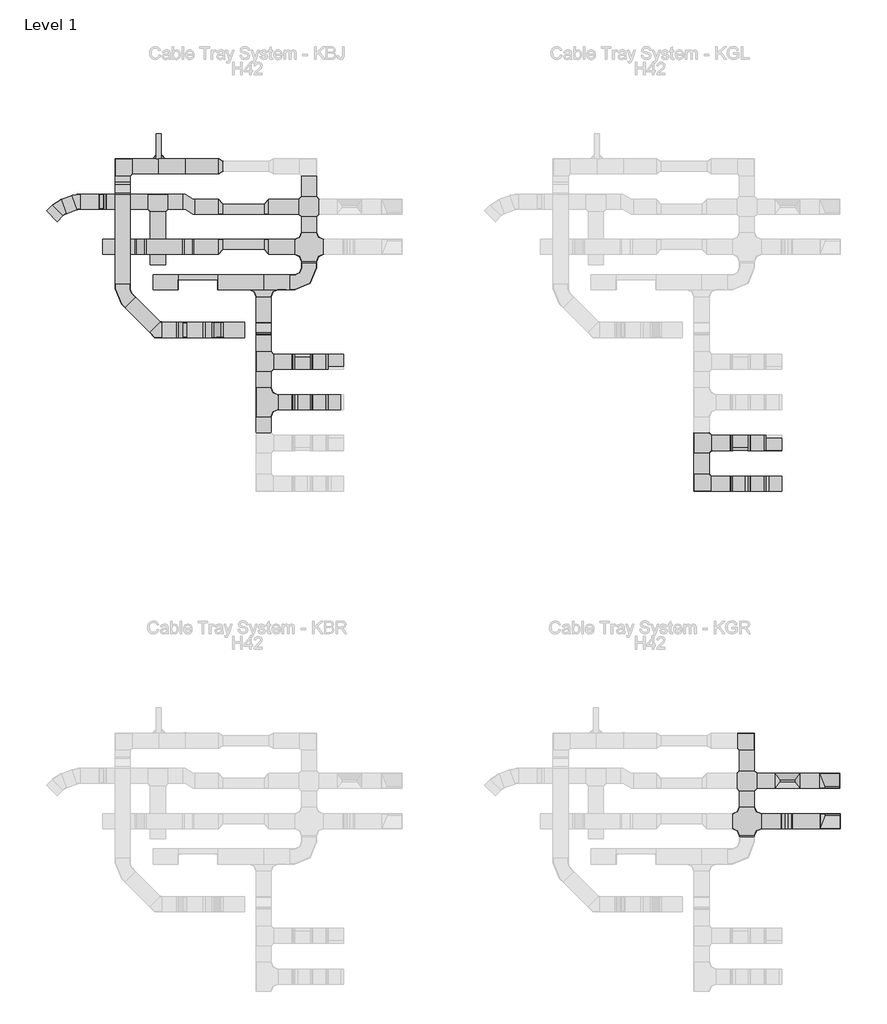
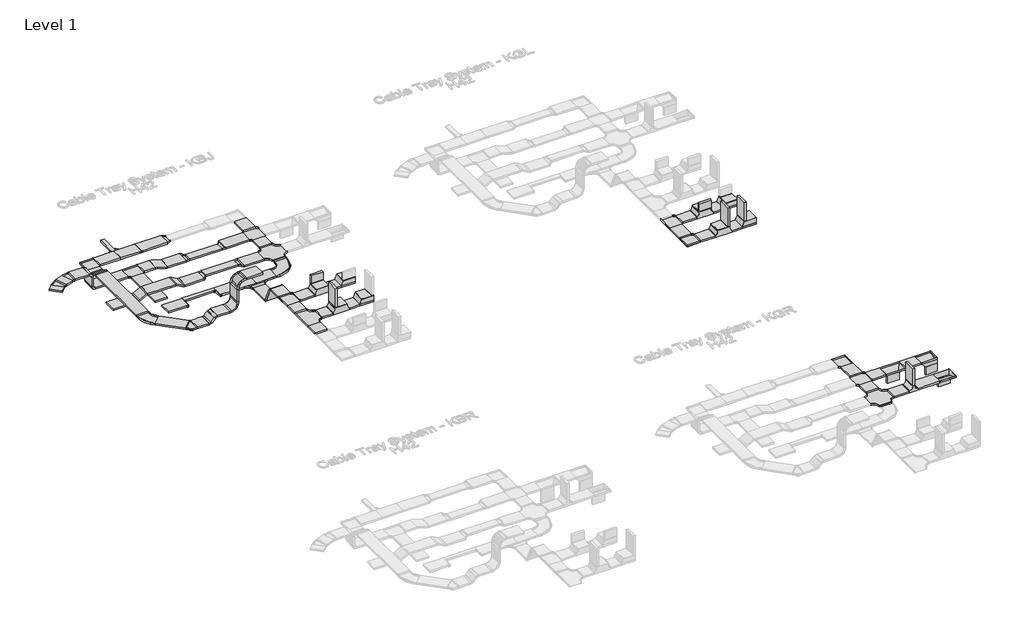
# One storey, part 6 of 106: 64 cable carrier segments, 51 cable carrier fittings.
"""IFC4 building model written with IfcOpenShell, lengths in millimetres."""

from ifc_helpers import new_model, si_unit, frame, origin, place, context, project, spatial, polyline, outline, extrude, transform, mapped, element, save
from components import cable_carrier_fitting_2f03b0e3, cable_carrier_fitting_e5c8e40d, cable_carrier_fitting_89415aa4, cable_carrier_fitting_efa56db2, cable_carrier_fitting_91cb0ece, cable_carrier_fitting_fd90c8b5, cable_carrier_fitting_9cc64f74, cable_carrier_fitting_881c8fdb, cable_carrier_fitting_302010ec, cable_carrier_fitting_bee8c25e, cable_carrier_fitting_2b67af39, cable_carrier_fitting_400b97e6, cable_carrier_fitting_736d034b, cable_carrier_fitting_af289c29, cable_carrier_fitting_3ff81d9b, cable_carrier_fitting_7d5806c9, cable_carrier_fitting_0ce080ce, cable_carrier_fitting_1724e2f5, cable_carrier_fitting_0e05e12f, cable_carrier_fitting_aa4403b1, cable_carrier_fitting_df0feb0d, cable_carrier_fitting_b8cc1d00, cable_carrier_fitting_19ef2403, cable_carrier_fitting_0fee3a18, cable_carrier_fitting_e93d4d17, cable_carrier_fitting_f62230c1, cable_carrier_fitting_68112528, cable_carrier_fitting_3c0e6721, cable_carrier_fitting_94ef316f, cable_carrier_fitting_70c157f5, cable_carrier_fitting_f138ef00, cable_carrier_fitting_b296faec, cable_carrier_fitting_717dd42d, cable_carrier_fitting_55953e98, cable_carrier_fitting_c1d9b0e5, rkj200_h42_1d64d163, rkj200_h42_0f858a6a

model = new_model("IFC4")

# Units and contexts
model_context = context("Model", 3, world=origin())
ifc_project = project(units=[si_unit("LENGTHUNIT", "METRE", prefix="MILLI")], contexts=[model_context])

# Site, building, storey
site = spatial("IfcSite", under=ifc_project)
building = spatial("IfcBuilding", under=site)
storey = spatial("IfcBuildingStorey", under=building, Name="Level 1", Elevation=0.0)

# Cable carrier fittings
placement = place(None, origin())
cable_carrier_fitting_shape = cable_carrier_fitting_2f03b0e3(model_context)
element("IfcCableCarrierFitting", 1, ObjectType="BAKS_Vertical tee symetrical : TRSNJ_H42", at=placement, inside=storey, context=model_context, shape_type="MappedRepresentation", body=[
    mapped(cable_carrier_fitting_shape, transform((-6858.1670538, 56380.8714214, 0.0), x_axis=(1.0, 0.0, 0.0), y_axis=(0.0, -1.0, 0.0), z_axis=(0.0, 0.0, -1.0))),
])
cable_carrier_fitting_2_shape = cable_carrier_fitting_e5c8e40d(model_context)
element("IfcCableCarrierFitting", 2, ObjectType="BAKS_SUB_Corner connector : LRJ_H42", at=placement, inside=storey, context=model_context, shape_type="MappedRepresentation", body=[
    mapped(cable_carrier_fitting_2_shape, transform((-19375.1670538, 69530.8714214, -21.0), x_axis=(-1.0, 0.0, 0.0), y_axis=(0.0, -1.0, 0.0), z_axis=(0.0, 0.0, 1.0))),
])
element("IfcCableCarrierFitting", 3, ObjectType="BAKS_SUB_Corner connector : LRJ_H42", at=placement, inside=storey, context=model_context, shape_type="MappedRepresentation", body=[
    mapped(cable_carrier_fitting_2_shape, transform((-19275.1670538, 69530.8714214, -21.0), x_axis=(0.0, 1.0, 0.0), y_axis=(-1.0, 0.0, 0.0), z_axis=(0.0, 0.0, 1.0))),
])
cable_carrier_fitting_3_shape = cable_carrier_fitting_89415aa4(model_context)
element("IfcCableCarrierFitting", 4, ObjectType="BAKS_Horizontal bend : KKBL/KKMBL_H42", at=placement, inside=storey, context=model_context, shape_type="MappedRepresentation", body=[
    mapped(cable_carrier_fitting_3_shape, transform((-19343.6670538, 66131.3714214, 100.0), x_axis=(0.7071067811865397, -0.7071067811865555, 0.0), y_axis=(0.7071067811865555, 0.7071067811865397, 0.0), z_axis=(0.0, 0.0, 1.0))),
])
cable_carrier_fitting_4_shape = cable_carrier_fitting_efa56db2(model_context)
element("IfcCableCarrierFitting", 5, ObjectType="BAKS_Horizontal bypass : OPZNJ_H42", at=placement, inside=storey, context=model_context, shape_type="MappedRepresentation", body=[
    mapped(cable_carrier_fitting_4_shape, transform((-18722.1670538, 68580.8714214, 0.0), x_axis=(-1.0, 0.0, 0.0), y_axis=(0.0, 1.0, 0.0), z_axis=(0.0, 0.0, -1.0))),
])
cable_carrier_fitting_5_shape = cable_carrier_fitting_91cb0ece(model_context)
element("IfcCableCarrierFitting", 6, ObjectType="BAKS_Horizontal cross over : CZKL_H42", at=placement, inside=storey, context=model_context, shape_type="MappedRepresentation", body=[
    mapped(cable_carrier_fitting_5_shape, transform((-7643.1670538, 57180.8714214, 0.0), x_axis=(0.0, -1.0, 0.0), y_axis=(1.0, 0.0, 0.0), z_axis=(0.0, 0.0, 1.0))),
])
element("IfcCableCarrierFitting", 7, ObjectType="BAKS_Horizontal cross over : CZKL_H42", at=placement, inside=storey, context=model_context, shape_type="MappedRepresentation", body=[
    mapped(cable_carrier_fitting_5_shape, transform((-16343.1670538, 68580.8714214, 0.0), x_axis=(0.0, -1.0, 0.0), y_axis=(1.0, 0.0, 0.0), z_axis=(0.0, 0.0, 1.0))),
])
cable_carrier_fitting_6_shape = cable_carrier_fitting_fd90c8b5(model_context)
element("IfcCableCarrierFitting", 8, ObjectType="BAKS_Horizontal tee radius : TKPJ_H42", at=placement, inside=storey, context=model_context, shape_type="MappedRepresentation", body=[
    mapped(cable_carrier_fitting_6_shape, transform((-17246.1670538, 64696.5802898, 432.5277378), x_axis=(0.0, 1.0, 0.0), y_axis=(-1.0, 0.0, 0.0), z_axis=(0.0, 0.0, 1.0))),
])
cable_carrier_fitting_7_shape = cable_carrier_fitting_9cc64f74(model_context)
element("IfcCableCarrierFitting", 9, ObjectType="BAKS_Horizontal tee : TKL_H42", at=placement, inside=storey, context=model_context, shape_type="MappedRepresentation", body=[
    mapped(cable_carrier_fitting_7_shape, transform((-19343.6670538, 68680.8714214, 0.0), x_axis=(1.0, 0.0, 0.0), y_axis=(0.0, 1.0, 0.0), z_axis=(0.0, 0.0, 1.0))),
])
element("IfcCableCarrierFitting", 10, ObjectType="BAKS_Horizontal tee : TKL_H42", at=placement, inside=storey, context=model_context, shape_type="MappedRepresentation", body=[
    mapped(cable_carrier_fitting_7_shape, transform((-17246.1670538, 65503.8631068, 432.5277378), x_axis=(0.0, 1.0, 0.0), y_axis=(-1.0, 0.0, 0.0), z_axis=(0.0, 0.0, 1.0))),
])
element("IfcCableCarrierFitting", 11, ObjectType="BAKS_Horizontal tee : TKL_H42", at=placement, inside=storey, context=model_context, shape_type="MappedRepresentation", body=[
    mapped(cable_carrier_fitting_7_shape, transform((-8546.1670538, 63889.2974728, 432.5277378), x_axis=(0.0, 1.0, 0.0), y_axis=(-1.0, 0.0, 0.0), z_axis=(0.0, 0.0, 1.0))),
])
cable_carrier_fitting_8_shape = cable_carrier_fitting_881c8fdb(model_context)
element("IfcCableCarrierFitting", 12, ObjectType="BAKS_Universal elbow : KRUMJ_H42", at=placement, inside=storey, context=model_context, shape_type="MappedRepresentation", body=[
    mapped(cable_carrier_fitting_8_shape, transform((-16006.1670538, 64696.5802898, 432.5277378), x_axis=(1.0, 0.0, 0.0), y_axis=(0.0, 1.0, 0.0), z_axis=(0.0, 0.0, 1.0))),
])
cable_carrier_fitting_9_shape = cable_carrier_fitting_302010ec(model_context)
element("IfcCableCarrierFitting", 13, ObjectType="BAKS_Universal tee : TRUNJ_H42", at=placement, inside=storey, context=model_context, shape_type="MappedRepresentation", body=[
    mapped(cable_carrier_fitting_9_shape, transform((-16473.5199976, 64696.5802898, 432.5277378), x_axis=(-1.0, 0.0, 0.0), y_axis=(0.0, -1.0, 0.0), z_axis=(0.0, 0.0, 1.0))),
])
cable_carrier_fitting_10_shape = cable_carrier_fitting_bee8c25e(model_context)
element("IfcCableCarrierFitting", 14, ObjectType="BAKS_Vertical bend adjustable : LLL/LLJ_H42", at=placement, inside=storey, context=model_context, shape_type="MappedRepresentation", body=[
    mapped(cable_carrier_fitting_10_shape, transform((-18246.2659001, 66131.3714214, 237.4011537), x_axis=(1.0, 0.0, 0.0), y_axis=(0.0, 0.0, 1.0), z_axis=(0.0, -1.0, 0.0))),
])
element("IfcCableCarrierFitting", 15, ObjectType="BAKS_Vertical bend adjustable : LLL/LLJ_H42", at=placement, inside=storey, context=model_context, shape_type="MappedRepresentation", body=[
    mapped(cable_carrier_fitting_10_shape, transform((-18246.2659001, 66131.3714214, 977.4011537), x_axis=(0.0, 0.0, 1.0), y_axis=(1.0, 0.0, 0.0), z_axis=(0.0, 1.0, 0.0))),
])
cable_carrier_fitting_11_shape = cable_carrier_fitting_2b67af39(model_context)
element("IfcCableCarrierFitting", 16, ObjectType="BAKS_Vertical bypass : OPNNJ_H42", at=placement, inside=storey, context=model_context, shape_type="MappedRepresentation", body=[
    mapped(cable_carrier_fitting_11_shape, transform((-19686.6670538, 67780.8714214, 100.0), x_axis=(-1.0, 0.0, 0.0), y_axis=(0.0, -1.0, 0.0), z_axis=(0.0, 0.0, 1.0))),
])
cable_carrier_fitting_12_shape = cable_carrier_fitting_400b97e6(model_context)
element("IfcCableCarrierFitting", 17, ObjectType="BAKS_Vertical elbow left : KRLBJ_H42", at=placement, inside=storey, context=model_context, shape_type="MappedRepresentation", body=[
    mapped(cable_carrier_fitting_12_shape, transform((-6208.1670538, 57180.8714214, 0.0), x_axis=(1.0, 0.0, 0.0), y_axis=(0.0, 1.0, 0.0), z_axis=(0.0, 0.0, 1.0))),
])
cable_carrier_fitting_13_shape = cable_carrier_fitting_736d034b(model_context)
element("IfcCableCarrierFitting", 18, ObjectType="BAKS_Vertical tee lengthwise : TRBJ_H42", at=placement, inside=storey, context=model_context, shape_type="MappedRepresentation", body=[
    mapped(cable_carrier_fitting_13_shape, transform((-6838.1670538, 57180.8714214, 0.0), x_axis=(-1.0, 0.0, 0.0), y_axis=(0.0, -1.0, 0.0), z_axis=(0.0, 0.0, 1.0))),
])
cable_carrier_fitting_14_shape = cable_carrier_fitting_af289c29(model_context)
element("IfcCableCarrierFitting", 19, ObjectType="BAKS_Articulated_connector : LGJ_H42", at=placement, inside=storey, context=model_context, shape_type="MappedRepresentation", body=[
    mapped(cable_carrier_fitting_14_shape, transform((-17246.1670538, 66258.7056523, 0.0), x_axis=(0.0, -1.0, 0.0), y_axis=(0.0, 0.0, 1.0), z_axis=(-1.0, 0.0, 0.0))),
])
element("IfcCableCarrierFitting", 20, ObjectType="BAKS_Articulated_connector : LGJ_H42", at=placement, inside=storey, context=model_context, shape_type="MappedRepresentation", body=[
    mapped(cable_carrier_fitting_14_shape, transform((-17246.1670538, 66057.0146558, 432.5277378), x_axis=(0.0, -0.42261826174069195, 0.9063077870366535), y_axis=(0.0, -0.9063077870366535, -0.42261826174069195), z_axis=(1.0, 0.0, 0.0))),
])
cable_carrier_fitting_15_shape = cable_carrier_fitting_3ff81d9b(model_context)
element("IfcCableCarrierFitting", 21, ObjectType="BAKS_Universal tee : TRUNJ_H42", at=placement, inside=storey, context=model_context, shape_type="MappedRepresentation", body=[
    mapped(cable_carrier_fitting_15_shape, transform((-16473.5199976, 65503.8631068, 432.5277378), x_axis=(-1.0, 0.0, 0.0), y_axis=(0.0, -1.0, 0.0), z_axis=(0.0, 0.0, 1.0))),
])
cable_carrier_fitting_16_shape = cable_carrier_fitting_7d5806c9(model_context)
element("IfcCableCarrierFitting", 22, ObjectType="BAKS_Universal tee : TRUNJ_H42", at=placement, inside=storey, context=model_context, shape_type="MappedRepresentation", body=[
    mapped(cable_carrier_fitting_16_shape, transform((-7773.5199976, 63889.2974728, 432.5277378), x_axis=(-1.0, 0.0, 0.0), y_axis=(0.0, -1.0, 0.0), z_axis=(0.0, 0.0, 1.0))),
])
cable_carrier_fitting_17_shape = cable_carrier_fitting_0ce080ce(model_context)
element("IfcCableCarrierFitting", 23, ObjectType="BAKS_Universal tee : TRUNJ_H42", at=placement, inside=storey, context=model_context, shape_type="MappedRepresentation", body=[
    mapped(cable_carrier_fitting_17_shape, transform((-7773.5199976, 63082.0146558, 432.5277378), x_axis=(-1.0, 0.0, 0.0), y_axis=(0.0, -1.0, 0.0), z_axis=(0.0, 0.0, 1.0))),
])
cable_carrier_fitting_18_shape = cable_carrier_fitting_1724e2f5(model_context)
element("IfcCableCarrierFitting", 24, ObjectType="BAKS_Vertical bypass : OPNNJ_H42", at=placement, inside=storey, context=model_context, shape_type="MappedRepresentation", body=[
    mapped(cable_carrier_fitting_18_shape, transform((-18743.6670538, 67780.8714214, 0.0), x_axis=(-1.0, 0.0, 0.0), y_axis=(0.0, -1.0, 0.0), z_axis=(0.0, 0.0, 1.0))),
])
element("IfcCableCarrierFitting", 25, ObjectType="BAKS_Vertical bypass : OPNNJ_H42", at=placement, inside=storey, context=model_context, shape_type="MappedRepresentation", body=[
    mapped(cable_carrier_fitting_18_shape, transform((-20043.1670538, 68939.3714214, 0.0), x_axis=(0.0, -1.0, 0.0), y_axis=(1.0, 0.0, 0.0), z_axis=(0.0, 0.0, 1.0))),
])
cable_carrier_fitting_19_shape = cable_carrier_fitting_0e05e12f(model_context)
element("IfcCableCarrierFitting", 26, ObjectType="BAKS_Universal elbow : KRUMJ_H42", at=placement, inside=storey, context=model_context, shape_type="MappedRepresentation", body=[
    mapped(cable_carrier_fitting_19_shape, transform((-16006.1670538, 65503.8631068, 432.5277378), x_axis=(1.0, 0.0, 0.0), y_axis=(0.0, 1.0, 0.0), z_axis=(0.0, 0.0, 1.0))),
])
cable_carrier_fitting_20_shape = cable_carrier_fitting_aa4403b1(model_context)
element("IfcCableCarrierFitting", 27, ObjectType="BAKS_Universal elbow : KRUMJ_H42", at=placement, inside=storey, context=model_context, shape_type="MappedRepresentation", body=[
    mapped(cable_carrier_fitting_20_shape, transform((-7306.1670538, 63889.2974728, 432.5277378), x_axis=(1.0, 0.0, 0.0), y_axis=(0.0, 1.0, 0.0), z_axis=(0.0, 0.0, 1.0))),
])
cable_carrier_fitting_21_shape = cable_carrier_fitting_df0feb0d(model_context)
element("IfcCableCarrierFitting", 28, ObjectType="BAKS_Universal elbow : KRUMJ_H42", at=placement, inside=storey, context=model_context, shape_type="MappedRepresentation", body=[
    mapped(cable_carrier_fitting_21_shape, transform((-7306.1670538, 63082.0146558, 432.5277378), x_axis=(1.0, 0.0, 0.0), y_axis=(0.0, 1.0, 0.0), z_axis=(0.0, 0.0, 1.0))),
])
cable_carrier_fitting_22_shape = cable_carrier_fitting_b8cc1d00(model_context)
element("IfcCableCarrierFitting", 29, ObjectType="BAKS_Vertical elbow right : KRPJ_H42", at=placement, inside=storey, context=model_context, shape_type="MappedRepresentation", body=[
    mapped(cable_carrier_fitting_22_shape, transform((-6202.1670538, 56380.8714214, 0.0), x_axis=(1.0, 0.0, 0.0), y_axis=(0.0, 1.0, 0.0), z_axis=(0.0, 0.0, 1.0))),
])
cable_carrier_fitting_23_shape = cable_carrier_fitting_19ef2403(model_context)
element("IfcCableCarrierFitting", 30, ObjectType="BAKS_Adjustable bend : KKRPJ_H42", at=placement, inside=storey, context=model_context, shape_type="MappedRepresentation", body=[
    mapped(cable_carrier_fitting_23_shape, transform((-21281.9563973, 68557.7441698, 400.0), x_axis=(-0.9396926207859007, -0.34202014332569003, 0.0), y_axis=(0.34202014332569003, -0.9396926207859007, 0.0), z_axis=(0.0, 0.0, 1.0))),
])
cable_carrier_fitting_24_shape = cable_carrier_fitting_0fee3a18(model_context)
element("IfcCableCarrierFitting", 31, ObjectType="BAKS_Adjustable bend : KKRPJ_H42", at=placement, inside=storey, context=model_context, shape_type="MappedRepresentation", body=[
    mapped(cable_carrier_fitting_24_shape, transform((-20943.6670538, 68680.8714214, 400.0), x_axis=(-1.0, 0.0, 0.0), y_axis=(0.0, -1.0, 0.0), z_axis=(0.0, 0.0, 1.0))),
])
cable_carrier_fitting_25_shape = cable_carrier_fitting_e93d4d17(model_context)
element("IfcCableCarrierFitting", 32, ObjectType="BAKS_Plate connector : LPMU_H42", at=placement, inside=storey, context=model_context, shape_type="MappedRepresentation", body=[
    mapped(cable_carrier_fitting_25_shape, transform((-18803.1670538, 69380.8714214, 0.0), x_axis=(1.0, 0.0, 0.0), y_axis=(0.0, 1.0, 0.0), z_axis=(0.0, 0.0, 1.0))),
])
cable_carrier_fitting_26_shape = cable_carrier_fitting_f62230c1(model_context)
element("IfcCableCarrierFitting", 33, ObjectType="BAKS_Vertical bend LU : LLJ_H42", at=placement, inside=storey, context=model_context, shape_type="MappedRepresentation", body=[
    mapped(cable_carrier_fitting_26_shape, transform((-20443.6670538, 68680.8714214, 0.0), x_axis=(-1.0, 0.0, 0.0), y_axis=(0.0, 0.0, 1.0), z_axis=(0.0, 1.0, 0.0))),
])
element("IfcCableCarrierFitting", 34, ObjectType="BAKS_Vertical bend LU : LLJ_H42", at=placement, inside=storey, context=model_context, shape_type="MappedRepresentation", body=[
    mapped(cable_carrier_fitting_26_shape, transform((-20443.6670538, 68680.8714214, 400.0), x_axis=(0.0, 0.0, 1.0), y_axis=(-1.0, 0.0, 0.0), z_axis=(0.0, -1.0, 0.0))),
])
cable_carrier_fitting_27_shape = cable_carrier_fitting_68112528(model_context)
element("IfcCableCarrierFitting", 35, ObjectType="BAKS_Vertical bend LU : LLJ_H42", at=placement, inside=storey, context=model_context, shape_type="MappedRepresentation", body=[
    mapped(cable_carrier_fitting_27_shape, transform((-18943.6670538, 66131.3714214, 100.0), x_axis=(1.0, 0.0, 0.0), y_axis=(0.0, 0.0, 1.0), z_axis=(0.0, -1.0, 0.0))),
])
element("IfcCableCarrierFitting", 36, ObjectType="BAKS_Vertical bend LU : LLJ_H42", at=placement, inside=storey, context=model_context, shape_type="MappedRepresentation", body=[
    mapped(cable_carrier_fitting_27_shape, transform((-18806.2659001, 66131.3714214, 237.4011537), x_axis=(0.7071067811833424, 0.0, 0.7071067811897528), y_axis=(0.7071067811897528, 0.0, -0.7071067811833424), z_axis=(0.0, 1.0, 0.0))),
])
cable_carrier_fitting_28_shape = cable_carrier_fitting_3c0e6721(model_context)
element("IfcCableCarrierFitting", 37, ObjectType="BAKS_Horizontal cross over radius : CZKPJ_H42", at=placement, inside=storey, context=model_context, shape_type="MappedRepresentation", body=[
    mapped(cable_carrier_fitting_28_shape, transform((-7643.1670538, 56380.8714214, 0.0), x_axis=(0.0, -1.0, 0.0), y_axis=(1.0, 0.0, 0.0), z_axis=(0.0, 0.0, 1.0))),
])
element("IfcCableCarrierFitting", 38, ObjectType="BAKS_Horizontal cross over radius : CZKPJ_H42", at=placement, inside=storey, context=model_context, shape_type="MappedRepresentation", body=[
    mapped(cable_carrier_fitting_28_shape, transform((-16343.1670538, 67780.8714214, 0.0), x_axis=(0.0, -1.0, 0.0), y_axis=(1.0, 0.0, 0.0), z_axis=(0.0, 0.0, 1.0))),
])
cable_carrier_fitting_29_shape = cable_carrier_fitting_94ef316f(model_context)
element("IfcCableCarrierFitting", 39, ObjectType="BAKS_Reducer : RK(S/L/P)L_H42", at=placement, inside=storey, context=model_context, shape_type="MappedRepresentation", body=[
    mapped(cable_carrier_fitting_29_shape, transform((-18143.1670538, 69380.8714214, 0.0), x_axis=(1.0, 0.0, 0.0), y_axis=(0.0, 1.0, 0.0), z_axis=(0.0, 0.0, 1.0))),
])
cable_carrier_fitting_30_shape = cable_carrier_fitting_70c157f5(model_context)
element("IfcCableCarrierFitting", 40, ObjectType="BAKS_Reducer : RK(S/L/P)L_H42", at=placement, inside=storey, context=model_context, shape_type="MappedRepresentation", body=[
    mapped(cable_carrier_fitting_30_shape, transform((-18143.1670538, 68580.8714214, 0.0), x_axis=(1.0, 0.0, 0.0), y_axis=(0.0, 1.0, 0.0), z_axis=(0.0, 0.0, 1.0))),
])
element("IfcCableCarrierFitting", 41, ObjectType="BAKS_Reducer : RK(S/L/P)L_H42", at=placement, inside=storey, context=model_context, shape_type="MappedRepresentation", body=[
    mapped(cable_carrier_fitting_30_shape, transform((-17143.1670538, 67780.8714214, 0.0), x_axis=(-1.0, 0.0, 0.0), y_axis=(0.0, -1.0, 0.0), z_axis=(0.0, 0.0, 1.0))),
])
cable_carrier_fitting_31_shape = cable_carrier_fitting_f138ef00(model_context)
element("IfcCableCarrierFitting", 42, ObjectType="BAKS_Reducer : RK(S/L/P)L_H42", at=placement, inside=storey, context=model_context, shape_type="MappedRepresentation", body=[
    mapped(cable_carrier_fitting_31_shape, transform((-17143.1670538, 68580.8714214, 0.0), x_axis=(-1.0, 0.0, 0.0), y_axis=(0.0, -1.0, 0.0), z_axis=(0.0, 0.0, 1.0))),
])
element("IfcCableCarrierFitting", 43, ObjectType="BAKS_Reducer : RK(S/L/P)L_H42", at=placement, inside=storey, context=model_context, shape_type="MappedRepresentation", body=[
    mapped(cable_carrier_fitting_31_shape, transform((-18143.1670538, 67780.8714214, 0.0), x_axis=(1.0, 0.0, 0.0), y_axis=(0.0, 1.0, 0.0), z_axis=(0.0, 0.0, 1.0))),
])
cable_carrier_fitting_32_shape = cable_carrier_fitting_b296faec(model_context)
element("IfcCableCarrierFitting", 44, ObjectType="BAKS_Horizontal addon tee : TKDJ_H42", at=placement, inside=storey, context=model_context, shape_type="MappedRepresentation", body=[
    mapped(cable_carrier_fitting_32_shape, transform((-17246.1670538, 67080.8714214, 0.0), x_axis=(1.0, 0.0, 0.0), y_axis=(0.0, 1.0, 0.0), z_axis=(0.0, 0.0, 1.0))),
])
cable_carrier_fitting_33_shape = cable_carrier_fitting_717dd42d(model_context)
element("IfcCableCarrierFitting", 45, ObjectType="BAKS_Horizontal bend : KKBL/KKMBL_H42", at=placement, inside=storey, context=model_context, shape_type="MappedRepresentation", body=[
    mapped(cable_carrier_fitting_33_shape, transform((-7643.1670538, 57980.8714214, 0.0), x_axis=(0.0, 1.0, 0.0), y_axis=(-1.0, 0.0, 0.0), z_axis=(0.0, 0.0, 1.0))),
])
element("IfcCableCarrierFitting", 46, ObjectType="BAKS_Horizontal bend : KKBL/KKMBL_H42", at=placement, inside=storey, context=model_context, shape_type="MappedRepresentation", body=[
    mapped(cable_carrier_fitting_33_shape, transform((-20043.1670538, 69380.8714214, 0.0), x_axis=(-1.0, 0.0, 0.0), y_axis=(0.0, -1.0, 0.0), z_axis=(0.0, 0.0, 1.0))),
])
element("IfcCableCarrierFitting", 47, ObjectType="BAKS_Horizontal bend : KKBL/KKMBL_H42", at=placement, inside=storey, context=model_context, shape_type="MappedRepresentation", body=[
    mapped(cable_carrier_fitting_33_shape, transform((-8546.1670538, 63082.0146558, 432.5277378), x_axis=(0.0, -1.0, 0.0), y_axis=(1.0, 0.0, 0.0), z_axis=(0.0, 0.0, 1.0))),
])
cable_carrier_fitting_34_shape = cable_carrier_fitting_55953e98(model_context)
element("IfcCableCarrierFitting", 48, ObjectType="BAKS_Horizontal bend radius : KKPJ/KKMPJ_H42", at=placement, inside=storey, context=model_context, shape_type="MappedRepresentation", body=[
    mapped(cable_carrier_fitting_34_shape, transform((-20043.1670538, 66830.8714214, 100.0), x_axis=(0.0, -1.0, 0.0), y_axis=(1.0, 0.0, 0.0), z_axis=(0.0, 0.0, 1.0))),
])
cable_carrier_fitting_35_shape = cable_carrier_fitting_c1d9b0e5(model_context)
element("IfcCableCarrierFitting", 49, ObjectType="BAKS_Horizontal bend radius : KKPJ/KKMPJ_H42", at=placement, inside=storey, context=model_context, shape_type="MappedRepresentation", body=[
    mapped(cable_carrier_fitting_35_shape, transform((-16343.1670538, 67080.8714214, 0.0), x_axis=(1.0, 0.0, 0.0), y_axis=(0.0, 1.0, 0.0), z_axis=(0.0, 0.0, 1.0))),
])
rkj200_h42_shape = rkj200_h42_1d64d163(model_context)
element("IfcCableCarrierFitting", 50, ObjectType="BAKS_SUB_Reduction angular : RKJ200_H42", at=placement, inside=storey, context=model_context, shape_type="MappedRepresentation", body=[
    mapped(rkj200_h42_shape, transform((-18943.1670538, 66930.8714214, -21.0), x_axis=(1.0, 0.0, 0.0), y_axis=(0.0, 1.0, 0.0), z_axis=(0.0, 0.0, 1.0))),
])
rkj200_h42_2_shape = rkj200_h42_0f858a6a(model_context)
element("IfcCableCarrierFitting", 51, ObjectType="BAKS_SUB_Reduction angular : RKJ200_H42", at=placement, inside=storey, context=model_context, shape_type="MappedRepresentation", body=[
    mapped(rkj200_h42_2_shape, transform((-18153.1670538, 66930.8714214, -21.0), x_axis=(-1.0, 0.0, 0.0), y_axis=(0.0, -1.0, 0.0), z_axis=(0.0, 0.0, 1.0))),
])

# Cable carrier segments
element("IfcCableCarrierSegment", 52, ObjectType="BAKS - Cable tray H42 (KGR)", at=placement, inside=storey, context=model_context, shape_type="SweptSolid", body=[
    extrude(outline(polyline([(-7793.1670538, 57784.8714214), (-7493.1670538, 57784.8714214), (-7493.1670538, 57385.8714214), (-7793.1670538, 57385.8714214), (-7793.1670538, 57784.8714214)])), frame((0.0, 0.0, -21.0), z_axis=(0.0, 0.0, 1.0), x_axis=(1.0, 0.0, 0.0)), (0.0, 0.0, 1.0), 42.0),
])
element("IfcCableCarrierSegment", 53, ObjectType="BAKS - Cable tray H42 (KGR)", at=placement, inside=storey, context=model_context, shape_type="SweptSolid", body=[
    extrude(outline(polyline([(-7793.1670538, 56975.8714214), (-7493.1670538, 56975.8714214), (-7493.1670538, 56671.8714214), (-7793.1670538, 56671.8714214), (-7793.1670538, 56975.8714214)])), frame((0.0, 0.0, -21.0), z_axis=(0.0, 0.0, 1.0), x_axis=(1.0, 0.0, 0.0)), (0.0, 0.0, 1.0), 42.0),
])
element("IfcCableCarrierSegment", 54, ObjectType="BAKS - Cable tray H42 (KGR)", at=placement, inside=storey, context=model_context, shape_type="SweptSolid", body=[
    extrude(outline(polyline([(-7493.1670538, 56070.8714214), (-7793.1670538, 56070.8714214), (-7793.1670538, 56089.8714214), (-7493.1670538, 56089.8714214), (-7493.1670538, 56070.8714214)])), frame((0.0, 0.0, -21.0), z_axis=(0.0, 0.0, 1.0), x_axis=(1.0, 0.0, 0.0)), (0.0, 0.0, 1.0), 42.0),
])
element("IfcCableCarrierSegment", 55, ObjectType="BAKS - Cable tray H42 (KGR)", at=placement, inside=storey, context=model_context, shape_type="SweptSolid", body=[
    extrude(outline(polyline([(-7438.1670538, 57030.8714214), (-7438.1670538, 57330.8714214), (-7088.1670538, 57330.8714214), (-7088.1670538, 57030.8714214), (-7438.1670538, 57030.8714214)])), frame((0.0, 0.0, -21.0), z_axis=(0.0, 0.0, 1.0), x_axis=(1.0, 0.0, 0.0)), (0.0, 0.0, 1.0), 42.0),
])
element("IfcCableCarrierSegment", 56, ObjectType="BAKS - Cable tray H42 (KGR)", at=placement, inside=storey, context=model_context, shape_type="SweptSolid", body=[
    extrude(outline(polyline([(-7352.1670538, 56230.8714214), (-7352.1670538, 56530.8714214), (-6974.1670538, 56530.8714214), (-6974.1670538, 56230.8714214), (-7352.1670538, 56230.8714214)])), frame((0.0, 0.0, -21.0), z_axis=(0.0, 0.0, 1.0), x_axis=(1.0, 0.0, 0.0)), (0.0, 0.0, 1.0), 42.0),
])
element("IfcCableCarrierSegment", 57, ObjectType="BAKS - Cable tray H42 (KGR)", at=placement, inside=storey, context=model_context, shape_type="SweptSolid", body=[
    extrude(outline(polyline([(-6742.1670538, 56230.8714214), (-6742.1670538, 56530.8714214), (-6202.1670538, 56530.8714214), (-6202.1670538, 56230.8714214), (-6742.1670538, 56230.8714214)])), frame((0.0, 0.0, -21.0), z_axis=(0.0, 0.0, 1.0), x_axis=(1.0, 0.0, 0.0)), (0.0, 0.0, 1.0), 42.0),
])
element("IfcCableCarrierSegment", 58, ObjectType="BAKS - Cable tray H42 (KGR)", at=placement, inside=storey, context=model_context, shape_type="SweptSolid", body=[
    extrude(outline(polyline([(-6837.1670538, 56230.8714214), (-6879.1670538, 56230.8714214), (-6879.1670538, 56530.8714214), (-6837.1670538, 56530.8714214), (-6837.1670538, 56230.8714214)])), frame((0.0, 0.0, 136.0), z_axis=(0.0, 0.0, 1.0), x_axis=(1.0, 0.0, 0.0)), (0.0, 0.0, 1.0), 449.0),
])
element("IfcCableCarrierSegment", 59, ObjectType="BAKS - Cable tray H42 (KGR)", at=placement, inside=storey, context=model_context, shape_type="SweptSolid", body=[
    extrude(outline(polyline([(-6588.1670538, 57030.8714214), (-6588.1670538, 57330.8714214), (-6208.1670538, 57330.8714214), (-6208.1670538, 57030.8714214), (-6588.1670538, 57030.8714214)])), frame((0.0, 0.0, -21.0), z_axis=(0.0, 0.0, 1.0), x_axis=(1.0, 0.0, 0.0)), (0.0, 0.0, 1.0), 42.0),
])
element("IfcCableCarrierSegment", 60, ObjectType="BAKS - Cable tray H42 (KBJ)", at=placement, inside=storey, context=model_context, shape_type="SweptSolid", body=[
    extrude(outline(polyline([(-18802.1670538, 69230.8714214), (-18802.1670538, 69530.8714214), (-18143.1670538, 69530.8714214), (-18143.1670538, 69230.8714214), (-18802.1670538, 69230.8714214)])), frame((0.0, 0.0, -21.0), z_axis=(0.0, 0.0, 1.0), x_axis=(1.0, 0.0, 0.0)), (0.0, 0.0, 1.0), 42.0),
])
element("IfcCableCarrierSegment", 61, ObjectType="BAKS - Cable tray H42 (KBJ)", at=placement, inside=storey, context=model_context, shape_type="SweptSolid", body=[
    extrude(outline(polyline([(-16493.1670538, 69184.8714214), (-16193.1670538, 69184.8714214), (-16193.1670538, 68785.8714214), (-16493.1670538, 68785.8714214), (-16493.1670538, 69184.8714214)])), frame((0.0, 0.0, -21.0), z_axis=(0.0, 0.0, 1.0), x_axis=(1.0, 0.0, 0.0)), (0.0, 0.0, 1.0), 42.0),
])
element("IfcCableCarrierSegment", 62, ObjectType="BAKS - Cable tray H42 (KBJ)", at=placement, inside=storey, context=model_context, shape_type="SweptSolid", body=[
    extrude(outline(polyline([(-16493.1670538, 68375.8714214), (-16193.1670538, 68375.8714214), (-16193.1670538, 68071.8714214), (-16493.1670538, 68071.8714214), (-16493.1670538, 68375.8714214)])), frame((0.0, 0.0, -21.0), z_axis=(0.0, 0.0, 1.0), x_axis=(1.0, 0.0, 0.0)), (0.0, 0.0, 1.0), 42.0),
])
element("IfcCableCarrierSegment", 63, ObjectType="BAKS - Cable tray H42 (KBJ)", at=placement, inside=storey, context=model_context, shape_type="SweptSolid", body=[
    extrude(outline(polyline([(-17238.1670538, 68630.8714214), (-17238.1670538, 68430.8714214), (-18048.1670538, 68430.8714214), (-18048.1670538, 68630.8714214), (-17238.1670538, 68630.8714214)])), frame((0.0, 0.0, -21.0), z_axis=(0.0, 0.0, 1.0), x_axis=(1.0, 0.0, 0.0)), (0.0, 0.0, 1.0), 42.0),
])
element("IfcCableCarrierSegment", 64, ObjectType="BAKS - Cable tray H42 (KBJ)", at=placement, inside=storey, context=model_context, shape_type="SweptSolid", body=[
    extrude(outline(polyline([(-18600.6670538, 68430.8714214), (-18600.6670538, 68730.8714214), (-18143.1670538, 68730.8714214), (-18143.1670538, 68430.8714214), (-18600.6670538, 68430.8714214)])), frame((0.0, 0.0, -21.0), z_axis=(0.0, 0.0, 1.0), x_axis=(1.0, 0.0, 0.0)), (0.0, 0.0, 1.0), 42.0),
])
element("IfcCableCarrierSegment", 65, ObjectType="BAKS - Cable tray H42 (KBJ)", at=placement, inside=storey, context=model_context, shape_type="SweptSolid", body=[
    extrude(outline(polyline([(-16548.1670538, 68730.8714214), (-16548.1670538, 68430.8714214), (-17143.1670538, 68430.8714214), (-17143.1670538, 68730.8714214), (-16548.1670538, 68730.8714214)])), frame((0.0, 0.0, -21.0), z_axis=(0.0, 0.0, 1.0), x_axis=(1.0, 0.0, 0.0)), (0.0, 0.0, 1.0), 42.0),
])
element("IfcCableCarrierSegment", 66, ObjectType="BAKS - Cable tray H42 (KBJ)", at=placement, inside=storey, context=model_context, shape_type="SweptSolid", body=[
    extrude(outline(polyline([(-17238.1670538, 67930.8714214), (-17238.1670538, 67730.8714214), (-18048.1670538, 67730.8714214), (-18048.1670538, 67930.8714214), (-17238.1670538, 67930.8714214)])), frame((0.0, 0.0, -21.0), z_axis=(0.0, 0.0, 1.0), x_axis=(1.0, 0.0, 0.0)), (0.0, 0.0, 1.0), 42.0),
])
element("IfcCableCarrierSegment", 67, ObjectType="BAKS - Cable tray H42 (KBJ)", at=placement, inside=storey, context=model_context, shape_type="SweptSolid", body=[
    extrude(outline(polyline([(-18622.1670538, 67630.8714214), (-18622.1670538, 67930.8714214), (-18143.1670538, 67930.8714214), (-18143.1670538, 67630.8714214), (-18622.1670538, 67630.8714214)])), frame((0.0, 0.0, -21.0), z_axis=(0.0, 0.0, 1.0), x_axis=(1.0, 0.0, 0.0)), (0.0, 0.0, 1.0), 42.0),
])
element("IfcCableCarrierSegment", 68, ObjectType="BAKS - Cable tray H42 (KBJ)", at=placement, inside=storey, context=model_context, shape_type="SweptSolid", body=[
    extrude(outline(polyline([(-16634.1670538, 67930.8714214), (-16634.1670538, 67630.8714214), (-17143.1670538, 67630.8714214), (-17143.1670538, 67930.8714214), (-16634.1670538, 67930.8714214)])), frame((0.0, 0.0, -21.0), z_axis=(0.0, 0.0, 1.0), x_axis=(1.0, 0.0, 0.0)), (0.0, 0.0, 1.0), 42.0),
])
element("IfcCableCarrierSegment", 69, ObjectType="BAKS - Cable tray H42 (KBJ)", at=placement, inside=storey, context=model_context, shape_type="SweptSolid", body=[
    extrude(outline(polyline([(-19548.6670538, 68830.8714214), (-19548.6670538, 68530.8714214), (-20367.6670538, 68530.8714214), (-20367.6670538, 68830.8714214), (-19548.6670538, 68830.8714214)])), frame((0.0, 0.0, -21.0), z_axis=(0.0, 0.0, 1.0), x_axis=(1.0, 0.0, 0.0)), (0.0, 0.0, 1.0), 42.0),
])
element("IfcCableCarrierSegment", 70, ObjectType="BAKS - Cable tray H42 (KBJ)", at=placement, inside=storey, context=model_context, shape_type="SweptSolid", body=[
    extrude(outline(polyline([(-18865.1670538, 67930.8714214), (-18865.1670538, 67630.8714214), (-19565.1670538, 67630.8714214), (-19565.1670538, 67930.8714214), (-18865.1670538, 67930.8714214)])), frame((0.0, 0.0, 79.0), z_axis=(0.0, 0.0, 1.0), x_axis=(1.0, 0.0, 0.0)), (0.0, 0.0, 1.0), 42.0),
])
element("IfcCableCarrierSegment", 71, ObjectType="BAKS - Cable tray H42 (KBJ)", at=placement, inside=storey, context=model_context, shape_type="SweptSolid", body=[
    extrude(outline(polyline([(-20193.1670538, 69184.8714214), (-19893.1670538, 69184.8714214), (-19893.1670538, 69060.8714214), (-20193.1670538, 69060.8714214), (-20193.1670538, 69184.8714214)])), frame((0.0, 0.0, -21.0), z_axis=(0.0, 0.0, 1.0), x_axis=(1.0, 0.0, 0.0)), (0.0, 0.0, 1.0), 42.0),
])
element("IfcCableCarrierSegment", 72, ObjectType="BAKS - Cable tray H42 (KBJ)", at=placement, inside=storey, context=model_context, shape_type="SweptSolid", body=[
    extrude(outline(polyline([(-19493.6670538, 68475.8714214), (-19193.6670538, 68475.8714214), (-19193.6670538, 67430.8714214), (-19493.6670538, 67430.8714214), (-19493.6670538, 68475.8714214)])), frame((0.0, 0.0, -21.0), z_axis=(0.0, 0.0, 1.0), x_axis=(1.0, 0.0, 0.0)), (0.0, 0.0, 1.0), 42.0),
])
element("IfcCableCarrierSegment", 73, ObjectType="BAKS - Cable tray H42 (KBJ)", at=placement, inside=storey, context=model_context, shape_type="SweptSolid", body=[
    extrude(outline(polyline([(-18843.6670538, 68830.8714214), (-18843.6670538, 68530.8714214), (-19138.6670538, 68530.8714214), (-19138.6670538, 68830.8714214), (-18843.6670538, 68830.8714214)])), frame((0.0, 0.0, -21.0), z_axis=(0.0, 0.0, 1.0), x_axis=(1.0, 0.0, 0.0)), (0.0, 0.0, 1.0), 42.0),
])
element("IfcCableCarrierSegment", 74, ObjectType="BAKS - Cable tray H42 (KBJ)", at=placement, inside=storey, context=model_context, shape_type="SweptSolid", body=[
    extrude(outline(polyline([(-19808.1670538, 67930.8714214), (-19808.1670538, 67630.8714214), (-20443.6670538, 67630.8714214), (-20443.6670538, 67930.8714214), (-19808.1670538, 67930.8714214)])), frame((0.0, 0.0, -21.0), z_axis=(0.0, 0.0, 1.0), x_axis=(1.0, 0.0, 0.0)), (0.0, 0.0, 1.0), 42.0),
])
element("IfcCableCarrierSegment", 75, ObjectType="BAKS - Cable tray H42 (KBJ)", at=placement, inside=storey, context=model_context, shape_type="SweptSolid", body=[
    extrude(outline(polyline([(-20877.5322294, 68530.8714214), (-20877.5322294, 68830.8714214), (-20519.6670538, 68830.8714214), (-20519.6670538, 68530.8714214), (-20877.5322294, 68530.8714214)])), frame((0.0, 0.0, 379.0), z_axis=(0.0, 0.0, 1.0), x_axis=(1.0, 0.0, 0.0)), (0.0, 0.0, 1.0), 42.0),
])
element("IfcCableCarrierSegment", 76, ObjectType="BAKS - Cable tray H42 (KBJ)", at=placement, inside=storey, context=model_context, shape_type="SweptSolid", body=[
    extrude(outline(polyline([(-20464.6670538, 68830.8714214), (-20422.6670538, 68830.8714214), (-20422.6670538, 68530.8714214), (-20464.6670538, 68530.8714214), (-20464.6670538, 68830.8714214)])), frame((0.0, 0.0, 76.0), z_axis=(0.0, 0.0, 1.0), x_axis=(1.0, 0.0, 0.0)), (0.0, 0.0, 1.0), 248.0),
])
element("IfcCableCarrierSegment", 77, ObjectType="BAKS - Cable tray H42 (KBJ)", at=placement, inside=storey, context=model_context, shape_type="SweptSolid", body=[
    extrude(outline(polyline([(-19893.1670538, 67050.9933545), (-20193.1670538, 67050.9933545), (-20193.1670538, 68817.8714214), (-19893.1670538, 68817.8714214), (-19893.1670538, 67050.9933545)])), frame((0.0, 0.0, 79.0), z_axis=(0.0, 0.0, 1.0), x_axis=(1.0, 0.0, 0.0)), (0.0, 0.0, 1.0), 42.0),
])
element("IfcCableCarrierSegment", 78, ObjectType="BAKS - Cable tray H42 (KBJ)", at=placement, inside=storey, context=model_context, shape_type="SweptSolid", body=[
    extrude(outline(polyline([(-19993.5833594, 66569.1556926), (-19781.451325, 66781.287727), (-19295.422321, 66295.258723), (-19507.5543554, 66083.1266887), (-19993.5833594, 66569.1556926)])), frame((0.0, 0.0, 79.0), z_axis=(0.0, 0.0, 1.0), x_axis=(1.0, 0.0, 0.0)), (0.0, 0.0, 1.0), 42.0),
])
element("IfcCableCarrierSegment", 79, ObjectType="BAKS - Cable tray H42 (KBJ)", at=placement, inside=storey, context=model_context, shape_type="SweptSolid", body=[
    extrude(outline(polyline([(-19261.8954091, 65981.3714214), (-19261.8954091, 66281.3714214), (-18978.0762167, 66281.3714214), (-18978.0762167, 65981.3714214), (-19261.8954091, 65981.3714214)])), frame((0.0, 0.0, 79.0), z_axis=(0.0, 0.0, 1.0), x_axis=(1.0, 0.0, 0.0)), (0.0, 0.0, 1.0), 42.0),
])
element("IfcCableCarrierSegment", 80, ObjectType="BAKS - Cable tray H42 (KBJ)", at=placement, inside=storey, context=model_context, shape_type="SweptSolid", body=[
    extrude(outline(polyline([(21.0, 1.4628667), (-21.0, 1.4628667), (-21.0, 301.4628667), (21.0, 301.4628667), (21.0, 1.4628667)])), frame((-18919.3361013, 65979.9085547, 124.3309524), z_axis=(0.7071067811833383, 0.0, 0.7071067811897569), x_axis=(0.7071067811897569, 0.0, -0.7071067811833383)), (0.0, 0.0, 1.0), 125.4962492),
])
element("IfcCableCarrierSegment", 81, ObjectType="BAKS - Cable tray H42 (KBJ)", at=placement, inside=storey, context=model_context, shape_type="SweptSolid", body=[
    extrude(outline(polyline([(-18771.8567371, 65981.3714214), (-18771.8567371, 66281.3714214), (-18457.2659001, 66281.3714214), (-18457.2659001, 65981.3714214), (-18771.8567371, 65981.3714214)])), frame((0.0, 0.0, 216.4011537), z_axis=(0.0, 0.0, 1.0), x_axis=(1.0, 0.0, 0.0)), (0.0, 0.0, 1.0), 42.0),
])
element("IfcCableCarrierSegment", 82, ObjectType="BAKS - Cable tray H42 (KBJ)", at=placement, inside=storey, context=model_context, shape_type="SweptSolid", body=[
    extrude(outline(polyline([(-18225.2659001, 65981.3714214), (-18267.2659001, 65981.3714214), (-18267.2659001, 66281.3714214), (-18225.2659001, 66281.3714214), (-18225.2659001, 65981.3714214)])), frame((0.0, 0.0, 448.4011537), z_axis=(0.0, 0.0, 1.0), x_axis=(1.0, 0.0, 0.0)), (0.0, 0.0, 1.0), 318.0),
])
element("IfcCableCarrierSegment", 83, ObjectType="BAKS - Cable tray H42 (KBJ)", at=placement, inside=storey, context=model_context, shape_type="SweptSolid", body=[
    extrude(outline(polyline([(-18035.2659001, 65981.3714214), (-18035.2659001, 66281.3714214), (-17626.2659001, 66281.3714214), (-17626.2659001, 65981.3714214), (-18035.2659001, 65981.3714214)])), frame((0.0, 0.0, 956.4011537), z_axis=(0.0, 0.0, 1.0), x_axis=(1.0, 0.0, 0.0)), (0.0, 0.0, 1.0), 42.0),
])
element("IfcCableCarrierSegment", 84, ObjectType="BAKS - Cable tray H42 (KBJ)", at=placement, inside=storey, context=model_context, shape_type="SweptSolid", body=[
    extrude(outline(polyline([(-17246.7091451, 67230.8714214), (-17246.7091451, 66930.8714214), (-18152.1670538, 66930.8714214), (-18152.1670538, 67230.8714214), (-17246.7091451, 67230.8714214)])), frame((0.0, 0.0, -21.0), z_axis=(0.0, 0.0, 1.0), x_axis=(1.0, 0.0, 0.0)), (0.0, 0.0, 1.0), 42.0),
])
element("IfcCableCarrierSegment", 85, ObjectType="BAKS - Cable tray H42 (KBJ)", at=placement, inside=storey, context=model_context, shape_type="SweptSolid", body=[
    extrude(outline(polyline([(-16193.1670538, 67470.8714214), (-16493.1670538, 67470.8714214), (-16493.1670538, 67489.8714214), (-16193.1670538, 67489.8714214), (-16193.1670538, 67470.8714214)])), frame((0.0, 0.0, -21.0), z_axis=(0.0, 0.0, 1.0), x_axis=(1.0, 0.0, 0.0)), (0.0, 0.0, 1.0), 42.0),
])
element("IfcCableCarrierSegment", 86, ObjectType="BAKS - Cable tray H42 (KBJ)", at=placement, inside=storey, context=model_context, shape_type="SweptSolid", body=[
    extrude(outline(polyline([(-19443.1670538, 66930.8714214), (-19443.1670538, 67230.8714214), (-18943.1670538, 67230.8714214), (-18943.1670538, 66930.8714214), (-19443.1670538, 66930.8714214)])), frame((0.0, 0.0, -21.0), z_axis=(0.0, 0.0, 1.0), x_axis=(1.0, 0.0, 0.0)), (0.0, 0.0, 1.0), 42.0),
])
element("IfcCableCarrierSegment", 87, ObjectType="BAKS - Cable tray H42 (KBJ)", at=placement, inside=storey, context=model_context, shape_type="SweptSolid", body=[
    extrude(outline(polyline([(-16733.1670538, 67230.8714214), (-16733.1670538, 66930.8714214), (-17245.6249624, 66930.8714214), (-17245.6249624, 67230.8714214), (-16733.1670538, 67230.8714214)])), frame((0.0, 0.0, -21.0), z_axis=(0.0, 0.0, 1.0), x_axis=(1.0, 0.0, 0.0)), (0.0, 0.0, 1.0), 42.0),
])
element("IfcCableCarrierSegment", 88, ObjectType="BAKS - Cable tray H42 (KBJ)", at=placement, inside=storey, context=model_context, shape_type="SweptSolid", body=[
    extrude(outline(polyline([(-17396.1670538, 66784.8714214), (-17096.1670538, 66784.8714214), (-17096.1670538, 66285.269479), (-17396.1670538, 66285.269479), (-17396.1670538, 66784.8714214)])), frame((0.0, 0.0, -21.0), z_axis=(0.0, 0.0, 1.0), x_axis=(1.0, 0.0, 0.0)), (0.0, 0.0, 1.0), 42.0),
])
element("IfcCableCarrierSegment", 89, ObjectType="BAKS - Cable tray H42 (KBJ)", at=placement, inside=storey, context=model_context, shape_type="SweptSolid", body=[
    extrude(outline(polyline([(-150.0, 130.4628667), (-150.0, 172.4628668), (150.0, 172.4628668), (150.0, 130.4628667), (-150.0, 130.4628667)])), frame((-17246.1670538, 66110.2073184, -39.9359704), z_axis=(0.0, -0.4226182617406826, 0.9063077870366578), x_axis=(1.0, 0.0, 0.0)), (0.0, 0.0, 1.0), 424.1139016),
])
element("IfcCableCarrierSegment", 90, ObjectType="BAKS - Cable tray H42 (KBJ)", at=placement, inside=storey, context=model_context, shape_type="SweptSolid", body=[
    extrude(outline(polyline([(-21057.1164817, 68799.2058724), (-20954.5104387, 68517.2980862), (-21156.1437833, 68443.9095505), (-21258.7498263, 68725.8173368), (-21057.1164817, 68799.2058724)])), frame((0.0, 0.0, 379.0), z_axis=(0.0, 0.0, 1.0), x_axis=(1.0, 0.0, 0.0)), (0.0, 0.0, 1.0), 42.0),
])
element("IfcCableCarrierSegment", 91, ObjectType="BAKS - Cable tray H42 (KBJ)", at=placement, inside=storey, context=model_context, shape_type="SweptSolid", body=[
    extrude(outline(polyline([(-21444.0899379, 68607.7426635), (-21231.9579036, 68395.6106291), (-21344.3432656, 68283.2252671), (-21556.4753, 68495.3573015), (-21444.0899379, 68607.7426635)])), frame((0.0, 0.0, 379.0), z_axis=(0.0, 0.0, 1.0), x_axis=(1.0, 0.0, 0.0)), (0.0, 0.0, 1.0), 42.0),
])
element("IfcCableCarrierSegment", 92, ObjectType="BAKS - Cable tray H42 (KBJ)", at=placement, inside=storey, context=model_context, shape_type="SweptSolid", body=[
    extrude(outline(polyline([(-19324.6670538, 69230.8714214), (-19324.6670538, 69530.8714214), (-18803.1670538, 69530.8714214), (-18803.1670538, 69230.8714214), (-19324.6670538, 69230.8714214)])), frame((0.0, 0.0, -21.0), z_axis=(0.0, 0.0, 1.0), x_axis=(1.0, 0.0, 0.0)), (0.0, 0.0, 1.0), 42.0),
])
element("IfcCableCarrierSegment", 93, ObjectType="BAKS - Cable tray H42 (KBJ)", at=placement, inside=storey, context=model_context, shape_type="SweptSolid", body=[
    extrude(outline(polyline([(-19275.1670538, 69530.8714214), (-19375.1670538, 69530.8714214), (-19375.1670538, 70030.8714214), (-19275.1670538, 70030.8714214), (-19275.1670538, 69530.8714214)])), frame((0.0, 0.0, -21.0), z_axis=(0.0, 0.0, 1.0), x_axis=(1.0, 0.0, 0.0)), (0.0, 0.0, 1.0), 42.0),
])
element("IfcCableCarrierSegment", 94, ObjectType="BAKS - Cable tray H42 (KBJ)", at=placement, inside=storey, context=model_context, shape_type="SweptSolid", body=[
    extrude(outline(polyline([(-19847.1670538, 69230.8714214), (-19847.1670538, 69530.8714214), (-19325.6670538, 69530.8714214), (-19325.6670538, 69230.8714214), (-19847.1670538, 69230.8714214)])), frame((0.0, 0.0, -21.0), z_axis=(0.0, 0.0, 1.0), x_axis=(1.0, 0.0, 0.0)), (0.0, 0.0, 1.0), 42.0),
])
element("IfcCableCarrierSegment", 95, ObjectType="BAKS - Cable tray H42 (KBJ)", at=placement, inside=storey, context=model_context, shape_type="SweptSolid", body=[
    extrude(outline(polyline([(-17396.1670538, 64401.5802898), (-17096.1670538, 64401.5802898), (-17096.1670538, 64094.2974728), (-17396.1670538, 64094.2974728), (-17396.1670538, 64401.5802898)])), frame((0.0, 0.0, 411.5277378), z_axis=(0.0, 0.0, 1.0), x_axis=(1.0, 0.0, 0.0)), (0.0, 0.0, 1.0), 42.0),
])
element("IfcCableCarrierSegment", 96, ObjectType="BAKS - Cable tray H42 (KBJ)", at=placement, inside=storey, context=model_context, shape_type="SweptSolid", body=[
    extrude(outline(polyline([(-16263.5199976, 64546.5802898), (-16263.5199976, 64846.5802898), (-16006.1670538, 64846.5802898), (-16006.1670538, 64546.5802898), (-16263.5199976, 64546.5802898)])), frame((0.0, 0.0, 411.5277378), z_axis=(0.0, 0.0, 1.0), x_axis=(1.0, 0.0, 0.0)), (0.0, 0.0, 1.0), 42.0),
])
element("IfcCableCarrierSegment", 97, ObjectType="BAKS - Cable tray H42 (KBJ)", at=placement, inside=storey, context=model_context, shape_type="SweptSolid", body=[
    extrude(outline(polyline([(-17396.1670538, 65298.8631068), (-17096.1670538, 65298.8631068), (-17096.1670538, 64991.5802898), (-17396.1670538, 64991.5802898), (-17396.1670538, 65298.8631068)])), frame((0.0, 0.0, 411.5277378), z_axis=(0.0, 0.0, 1.0), x_axis=(1.0, 0.0, 0.0)), (0.0, 0.0, 1.0), 42.0),
])
element("IfcCableCarrierSegment", 98, ObjectType="BAKS - Cable tray H42 (KBJ)", at=placement, inside=storey, context=model_context, shape_type="SweptSolid", body=[
    extrude(outline(polyline([(-16263.5199976, 65353.8631068), (-16263.5199976, 65653.8631068), (-16006.1670538, 65653.8631068), (-16006.1670538, 65353.8631068), (-16263.5199976, 65353.8631068)])), frame((0.0, 0.0, 411.5277378), z_axis=(0.0, 0.0, 1.0), x_axis=(1.0, 0.0, 0.0)), (0.0, 0.0, 1.0), 42.0),
])
element("IfcCableCarrierSegment", 99, ObjectType="BAKS - Cable tray H42 (KBJ)", at=placement, inside=storey, context=model_context, shape_type="SweptSolid", body=[
    extrude(outline(polyline([(-17096.1670538, 65708.8631068), (-17396.1670538, 65708.8631068), (-17396.1670538, 66030.450829), (-17096.1670538, 66030.450829), (-17096.1670538, 65708.8631068)])), frame((0.0, 0.0, 411.5277378), z_axis=(0.0, 0.0, 1.0), x_axis=(1.0, 0.0, 0.0)), (0.0, 0.0, 1.0), 42.0),
])
element("IfcCableCarrierSegment", 100, ObjectType="BAKS - Cable tray H42 (KBJ)", at=placement, inside=storey, context=model_context, shape_type="SweptSolid", body=[
    extrude(outline(polyline([(-17041.1670538, 65353.8631068), (-17041.1670538, 65653.8631068), (-16683.5199976, 65653.8631068), (-16683.5199976, 65353.8631068), (-17041.1670538, 65353.8631068)])), frame((0.0, 0.0, 411.5277378), z_axis=(0.0, 0.0, 1.0), x_axis=(1.0, 0.0, 0.0)), (0.0, 0.0, 1.0), 42.0),
])
element("IfcCableCarrierSegment", 101, ObjectType="BAKS - Cable tray H42 (KBJ)", at=placement, inside=storey, context=model_context, shape_type="SweptSolid", body=[
    extrude(outline(polyline([(-16951.1670538, 64546.5802898), (-16951.1670538, 64846.5802898), (-16683.5199976, 64846.5802898), (-16683.5199976, 64546.5802898), (-16951.1670538, 64546.5802898)])), frame((0.0, 0.0, 411.5277378), z_axis=(0.0, 0.0, 1.0), x_axis=(1.0, 0.0, 0.0)), (0.0, 0.0, 1.0), 42.0),
])
element("IfcCableCarrierSegment", 102, ObjectType="BAKS - Cable tray H42 (KBJ)", at=placement, inside=storey, context=model_context, shape_type="SweptSolid", body=[
    extrude(outline(polyline([(-16323.5199976, 65653.8631068), (-16323.5199976, 65603.8631068), (-16623.5199976, 65603.8631068), (-16623.5199976, 65653.8631068), (-16323.5199976, 65653.8631068)])), frame((0.0, 0.0, 586.5277378), z_axis=(0.0, 0.0, 1.0), x_axis=(1.0, 0.0, 0.0)), (0.0, 0.0, 1.0), 209.7997464),
])
element("IfcCableCarrierSegment", 103, ObjectType="BAKS - Cable tray H42 (KBJ)", at=placement, inside=storey, context=model_context, shape_type="SweptSolid", body=[
    extrude(outline(polyline([(-16623.5199976, 64846.5802898), (-16573.5199976, 64846.5802898), (-16573.5199976, 64546.5802898), (-16623.5199976, 64546.5802898), (-16623.5199976, 64846.5802898)])), frame((0.0, 0.0, 586.5277378), z_axis=(0.0, 0.0, 1.0), x_axis=(1.0, 0.0, 0.0)), (0.0, 0.0, 1.0), 500.0),
])
element("IfcCableCarrierSegment", 104, ObjectType="BAKS - Cable tray H42 (KGL)", at=placement, inside=storey, context=model_context, shape_type="SweptSolid", body=[
    extrude(outline(polyline([(-8696.1670538, 63684.2974728), (-8396.1670538, 63684.2974728), (-8396.1670538, 63278.0146558), (-8696.1670538, 63278.0146558), (-8696.1670538, 63684.2974728)])), frame((0.0, 0.0, 411.5277378), z_axis=(0.0, 0.0, 1.0), x_axis=(1.0, 0.0, 0.0)), (0.0, 0.0, 1.0), 42.0),
])
element("IfcCableCarrierSegment", 105, ObjectType="BAKS - Cable tray H42 (KGL)", at=placement, inside=storey, context=model_context, shape_type="SweptSolid", body=[
    extrude(outline(polyline([(-7563.5199976, 62932.0146558), (-7563.5199976, 63232.0146558), (-7306.1670538, 63232.0146558), (-7306.1670538, 62932.0146558), (-7563.5199976, 62932.0146558)])), frame((0.0, 0.0, 411.5277378), z_axis=(0.0, 0.0, 1.0), x_axis=(1.0, 0.0, 0.0)), (0.0, 0.0, 1.0), 42.0),
])
element("IfcCableCarrierSegment", 106, ObjectType="BAKS - Cable tray H42 (KGL)", at=placement, inside=storey, context=model_context, shape_type="SweptSolid", body=[
    extrude(outline(polyline([(-7563.5199976, 63739.2974728), (-7563.5199976, 64039.2974728), (-7306.1670538, 64039.2974728), (-7306.1670538, 63739.2974728), (-7563.5199976, 63739.2974728)])), frame((0.0, 0.0, 411.5277378), z_axis=(0.0, 0.0, 1.0), x_axis=(1.0, 0.0, 0.0)), (0.0, 0.0, 1.0), 42.0),
])
element("IfcCableCarrierSegment", 107, ObjectType="BAKS - Cable tray H42 (KGL)", at=placement, inside=storey, context=model_context, shape_type="SweptSolid", body=[
    extrude(outline(polyline([(-8341.1670538, 63739.2974728), (-8341.1670538, 64039.2974728), (-7983.5199976, 64039.2974728), (-7983.5199976, 63739.2974728), (-8341.1670538, 63739.2974728)])), frame((0.0, 0.0, 411.5277378), z_axis=(0.0, 0.0, 1.0), x_axis=(1.0, 0.0, 0.0)), (0.0, 0.0, 1.0), 42.0),
])
element("IfcCableCarrierSegment", 108, ObjectType="BAKS - Cable tray H42 (KGL)", at=placement, inside=storey, context=model_context, shape_type="SweptSolid", body=[
    extrude(outline(polyline([(-8350.1670538, 62932.0146558), (-8350.1670538, 63232.0146558), (-7983.5199976, 63232.0146558), (-7983.5199976, 62932.0146558), (-8350.1670538, 62932.0146558)])), frame((0.0, 0.0, 411.5277378), z_axis=(0.0, 0.0, 1.0), x_axis=(1.0, 0.0, 0.0)), (0.0, 0.0, 1.0), 42.0),
])
element("IfcCableCarrierSegment", 109, ObjectType="BAKS - Cable tray H42 (KGL)", at=placement, inside=storey, context=model_context, shape_type="SweptSolid", body=[
    extrude(outline(polyline([(-7923.5199976, 63739.2974728), (-7923.5199976, 63789.2974728), (-7623.5199976, 63789.2974728), (-7623.5199976, 63739.2974728), (-7923.5199976, 63739.2974728)])), frame((0.0, 0.0, 586.5277378), z_axis=(0.0, 0.0, 1.0), x_axis=(1.0, 0.0, 0.0)), (0.0, 0.0, 1.0), 209.7997464),
])
element("IfcCableCarrierSegment", 110, ObjectType="BAKS - Cable tray H42 (KGL)", at=placement, inside=storey, context=model_context, shape_type="SweptSolid", body=[
    extrude(outline(polyline([(-7673.5199976, 63232.0146558), (-7623.5199976, 63232.0146558), (-7623.5199976, 62932.0146558), (-7673.5199976, 62932.0146558), (-7673.5199976, 63232.0146558)])), frame((0.0, 0.0, 586.5277378), z_axis=(0.0, 0.0, 1.0), x_axis=(1.0, 0.0, 0.0)), (0.0, 0.0, 1.0), 500.0),
])
element("IfcCableCarrierSegment", 111, ObjectType="BAKS - Cable tray H42 (KGL)", at=placement, inside=storey, context=model_context, shape_type="SweptSolid", body=[
    extrude(outline(polyline([(-7256.1670538, 63232.0146558), (-7206.1670538, 63232.0146558), (-7206.1670538, 62932.0146558), (-7256.1670538, 62932.0146558), (-7256.1670538, 63232.0146558)])), frame((0.0, 0.0, 586.5277378), z_axis=(0.0, 0.0, 1.0), x_axis=(1.0, 0.0, 0.0)), (0.0, 0.0, 1.0), 500.0),
])
element("IfcCableCarrierSegment", 112, ObjectType="BAKS - Cable tray H42 (KGR)", at=placement, inside=storey, context=model_context, shape_type="SweptSolid", body=[
    extrude(outline(polyline([(-6988.1670538, 57201.8714214), (-6688.1670538, 57201.8714214), (-6688.1670538, 57159.8714214), (-6988.1670538, 57159.8714214), (-6988.1670538, 57201.8714214)])), frame((0.0, 0.0, -330.7997464), z_axis=(0.0, 0.0, 1.0), x_axis=(1.0, 0.0, 0.0)), (0.0, 0.0, 1.0), 209.7997464),
])
element("IfcCableCarrierSegment", 113, ObjectType="BAKS - Cable tray H42 (KGR)", at=placement, inside=storey, context=model_context, shape_type="SweptSolid", body=[
    extrude(outline(polyline([(-5798.1670538, 57030.8714214), (-6098.1670538, 57030.8714214), (-6098.1670538, 57072.8714214), (-5798.1670538, 57072.8714214), (-5798.1670538, 57030.8714214)])), frame((0.0, 0.0, -330.7997464), z_axis=(0.0, 0.0, 1.0), x_axis=(1.0, 0.0, 0.0)), (0.0, 0.0, 1.0), 209.7997464),
])
element("IfcCableCarrierSegment", 114, ObjectType="BAKS - Cable tray H42 (KGR)", at=placement, inside=storey, context=model_context, shape_type="SweptSolid", body=[
    extrude(outline(polyline([(-5792.1670538, 56488.8714214), (-6092.1670538, 56488.8714214), (-6092.1670538, 56530.8714214), (-5792.1670538, 56530.8714214), (-5792.1670538, 56488.8714214)])), frame((0.0, 0.0, -330.7997464), z_axis=(0.0, 0.0, 1.0), x_axis=(1.0, 0.0, 0.0)), (0.0, 0.0, 1.0), 209.7997464),
])
element("IfcCableCarrierSegment", 115, ObjectType="BAKS - Cable tray H42 (KBJ)", at=placement, inside=storey, context=model_context, shape_type="SweptSolid", body=[
    extrude(outline(polyline([(-18942.1670538, 67130.8714214), (-18942.1670538, 67230.8714214), (-18154.1670538, 67230.8714214), (-18154.1670538, 67130.8714214), (-18942.1670538, 67130.8714214)])), frame((0.0, 0.0, -21.0), z_axis=(0.0, 0.0, 1.0), x_axis=(1.0, 0.0, 0.0)), (0.0, 0.0, 1.0), 42.0),
])

save(model, "model.ifc")
